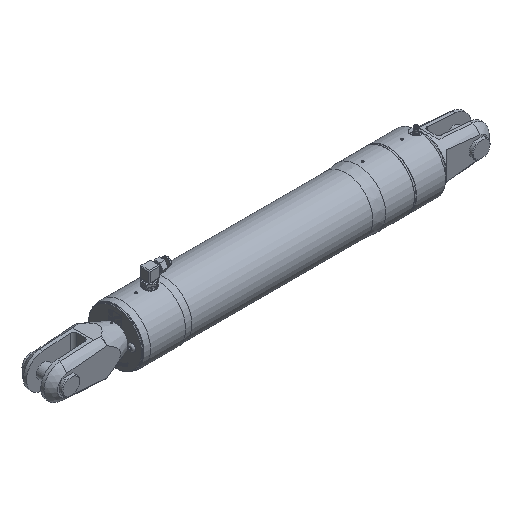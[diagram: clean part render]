
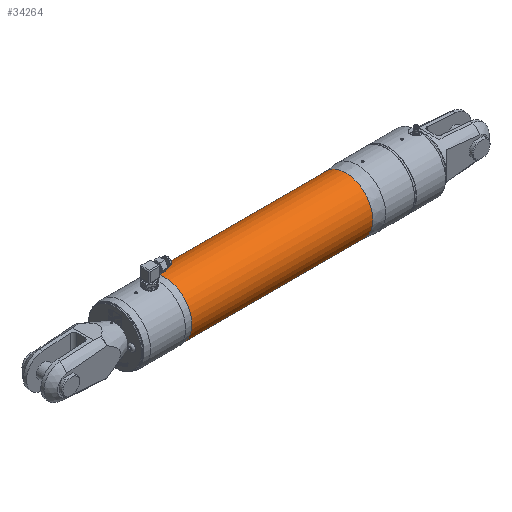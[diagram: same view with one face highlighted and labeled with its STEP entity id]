
A CAD part, isometric view. The second image highlights one B-rep face of the part: STEP entity #34264.
In plain terms, the highlighted cylindrical face has radius 66.7 mm (diameter 133.4 mm), a full revolution.
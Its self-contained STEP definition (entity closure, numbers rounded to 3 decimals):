
#4799=LINE('',#61918,#7768);
#7768=VECTOR('',#41317,66.7);
#8083=CYLINDRICAL_SURFACE('',#35748,66.7);
#11431=FACE_OUTER_BOUND('',#13359,.T.);
#13359=EDGE_LOOP('',(#30417,#30418,#30419,#30420,#30421,#30422));
#13879=CIRCLE('',#35745,66.7);
#13880=CIRCLE('',#35746,66.7);
#13882=CIRCLE('',#35749,66.7);
#13883=CIRCLE('',#35750,66.7);
#16883=VERTEX_POINT('',#61910);
#16884=VERTEX_POINT('',#61912);
#16885=VERTEX_POINT('',#61917);
#16886=VERTEX_POINT('',#61919);
#21461=EDGE_CURVE('',#16884,#16883,#13879,.T.);
#21462=EDGE_CURVE('',#16883,#16884,#13880,.T.);
#21464=EDGE_CURVE('',#16883,#16885,#4799,.T.);
#21465=EDGE_CURVE('',#16886,#16885,#13882,.T.);
#21466=EDGE_CURVE('',#16885,#16886,#13883,.T.);
#30417=ORIENTED_EDGE('',*,*,#21461,.T.);
#30418=ORIENTED_EDGE('',*,*,#21464,.T.);
#30419=ORIENTED_EDGE('',*,*,#21465,.F.);
#30420=ORIENTED_EDGE('',*,*,#21466,.F.);
#30421=ORIENTED_EDGE('',*,*,#21464,.F.);
#30422=ORIENTED_EDGE('',*,*,#21462,.T.);
#34264=ADVANCED_FACE('',(#11431),#8083,.T.);
#35745=AXIS2_PLACEMENT_3D('',#61913,#41309,#41310);
#35746=AXIS2_PLACEMENT_3D('',#61914,#41311,#41312);
#35748=AXIS2_PLACEMENT_3D('',#61916,#41315,#41316);
#35749=AXIS2_PLACEMENT_3D('',#61920,#41318,#41319);
#35750=AXIS2_PLACEMENT_3D('',#61921,#41320,#41321);
#41309=DIRECTION('center_axis',(1.,0.,0.));
#41310=DIRECTION('ref_axis',(0.,0.,
-1.));
#41311=DIRECTION('center_axis',(1.,0.,0.));
#41312=DIRECTION('ref_axis',(0.,0.,
-1.));
#41315=DIRECTION('center_axis',(1.,0.,0.));
#41316=DIRECTION('ref_axis',(0.,0.,
1.));
#41317=DIRECTION('',(1.,0.,0.));
#41318=DIRECTION('center_axis',(1.,0.,0.));
#41319=DIRECTION('ref_axis',(0.,0.,
-1.));
#41320=DIRECTION('center_axis',(1.,0.,0.));
#41321=DIRECTION('ref_axis',(0.,0.,
-1.));
#61910=CARTESIAN_POINT('',(-531.234,0.,-66.7));
#61912=CARTESIAN_POINT('',(-531.234,0.,66.7));
#61913=CARTESIAN_POINT('Origin',(-531.234,0.,
0.));
#61914=CARTESIAN_POINT('Origin',(-531.234,0.,
0.));
#61916=CARTESIAN_POINT('Origin',(-310.274,0.,
0.));
#61917=CARTESIAN_POINT('',(-89.313,0.,-66.7));
#61918=CARTESIAN_POINT('',(-310.274,0.,-66.7));
#61919=CARTESIAN_POINT('',(-89.313,0.,66.7));
#61920=CARTESIAN_POINT('Origin',(-89.313,0.,
0.));
#61921=CARTESIAN_POINT('Origin',(-89.313,0.,
0.));
